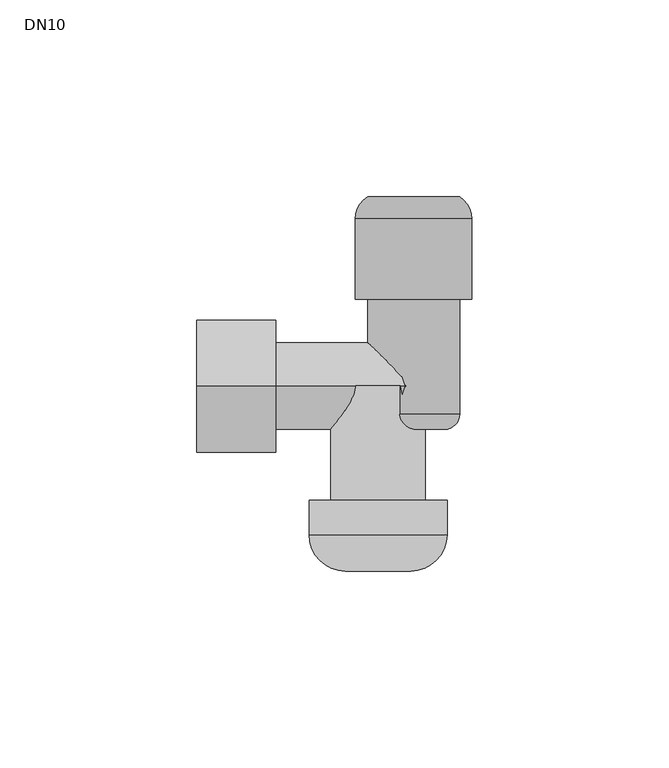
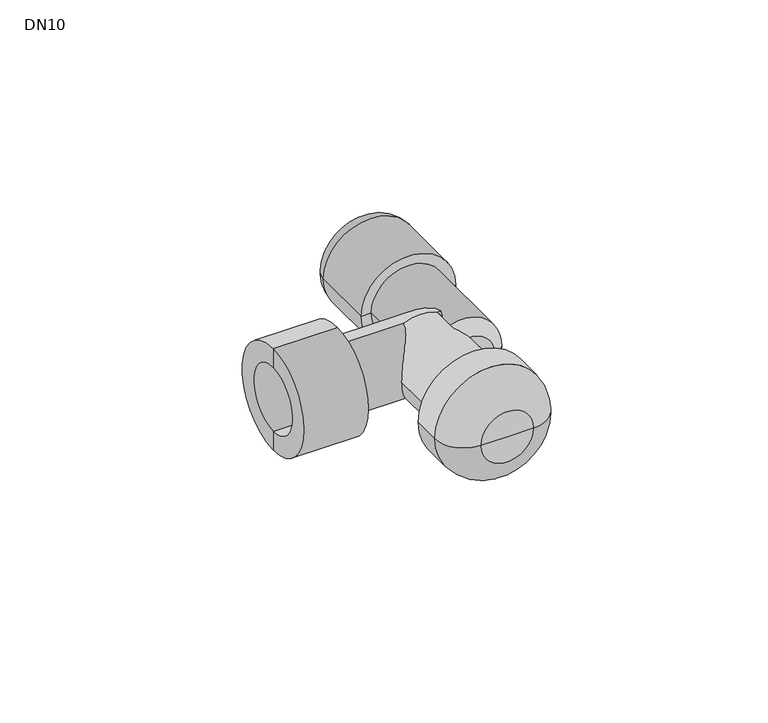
"""IFC4 building model written with IfcOpenShell, lengths in millimetres: valve geometry, Wavin_PipeAccessory_Hep2oAngledServiceValve : DN10."""

from ifc_helpers import new_model, si_unit, point, frame, origin, place, context, project, spatial, polyline, circle_curve, ellipse_curve, trimmed, source, transform, mapped, element, save
from ifc_brep_helpers import plane_surface, cylinder_surface, revolved_surface, advanced_brep


def dn10_693bce13(model_context):
    return source(origin(), model_context, "Body", "AdvancedBrep", [
        advanced_brep(
        [(3.0, -29.0, 0.0), (-21.0, -29.0, 0.0), (-21.0, 0.0, 0.0), (3.0, 0.0, 0.0), (8.5, -29.0, 0.0), (-26.5, -29.0, 0.0), (8.5, -37.8289301, 0.0), (-26.5, -37.8289301, 0.0), (-0.6710699, -47.0, 0.0), (-17.3289301, -47.0, 0.0), (-9.0, -47.0, 0.0), (-9.0, 0.0, 0.0)],
        [
            (0, 1, circle_curve(frame((-9.0, -29.0, 0.0), z_axis=(0.0, 1.0, 0.0), x_axis=(-1.0, 0.0, 0.0)), 12.0)),
            (1, 2),
            (2, 3, circle_curve(frame((-9.0, 0.0, 0.0), z_axis=(0.0, -1.0, 0.0), x_axis=(-1.0, 0.0, 0.0)), 12.0)),
            (3, 0),
            (1, 0, circle_curve(frame((-9.0, -29.0, 0.0), z_axis=(0.0, 1.0, 0.0), x_axis=(-1.0, 0.0, 0.0)), 12.0)),
            (3, 2, circle_curve(frame((-9.0, 0.0, 0.0), z_axis=(0.0, -1.0, 0.0), x_axis=(-1.0, 0.0, 0.0)), 12.0)),
            (4, 5, circle_curve(frame((-9.0, -29.0, 0.0), z_axis=(0.0, 1.0, 0.0), x_axis=(-1.0, 0.0, 0.0)), 17.5)),
            (5, 1),
            (0, 4),
            (5, 4, circle_curve(frame((-9.0, -29.0, 0.0), z_axis=(0.0, 1.0, 0.0), x_axis=(-1.0, 0.0, 0.0)), 17.5)),
            (6, 7, circle_curve(frame((-9.0, -37.8289301, 0.0), z_axis=(0.0, 1.0, 0.0), x_axis=(-1.0, 0.0, 0.0)), 17.5)),
            (7, 5),
            (4, 6),
            (7, 6, circle_curve(frame((-9.0, -37.8289301, 0.0), z_axis=(0.0, 1.0, 0.0), x_axis=(-1.0, 0.0, 0.0)), 17.5)),
            (8, 9, circle_curve(frame((-9.0, -47.0, 0.0), z_axis=(0.0, 1.0, 0.0), x_axis=(-1.0, 0.0, 0.0)), 8.3289301)),
            (9, 7, circle_curve(frame((-17.3289301, -37.8289301, 0.0), z_axis=(0.0, 0.0, -1.0), x_axis=(0.0, -1.0, 0.0)), 9.1710699)),
            (6, 8, circle_curve(frame((-0.6710699, -37.8289301, 0.0), z_axis=(0.0, 0.0, -1.0), x_axis=(0.0, -1.0, 0.0)), 9.1710699)),
            (9, 8, circle_curve(frame((-9.0, -47.0, 0.0), z_axis=(0.0, 1.0, 0.0), x_axis=(-1.0, 0.0, 0.0)), 8.3289301)),
            (10, 9),
            (8, 10),
            (2, 11),
            (11, 3),
        ],
        [
            cylinder_surface(frame((-9.0, 0.0, 0.0), z_axis=(0.0, -1.0, 0.0), x_axis=(-1.0, 0.0, 0.0)), 12.0),
            plane_surface(frame((-9.0, -29.0, 0.0), z_axis=(0.0, 1.0, 0.0), x_axis=(-1.0, 0.0, 0.0))),
            cylinder_surface(frame((-9.0, 0.0, 0.0), z_axis=(0.0, -1.0, 0.0), x_axis=(-1.0, 0.0, 0.0)), 17.5),
            revolved_surface(trimmed(ellipse_curve(frame((-17.3289301, -37.8289301, 0.0), z_axis=(0.0, 0.0, 1.0), x_axis=(0.0, -1.0, 0.0)), 9.1710699, 9.1710699), [point((-26.5, -37.8289301, 0.0))], [point((-17.3289301, -47.0, 0.0))], True, "CARTESIAN"), (-9.0, 0.0, 0.0), (0.0, -1.0, 0.0)),
            plane_surface(frame((-9.0, -47.0, 0.0), z_axis=(0.0, -1.0, 0.0), x_axis=(-1.0, 0.0, 0.0))),
            plane_surface(frame((-9.0, 0.0, 0.0), z_axis=(0.0, 1.0, 0.0), x_axis=(-1.0, 0.0, 0.0))),
        ],
        [
            (0, [[1, 2, 3, 4]]),
            (0, [[5, -4, 6, -2]]),
            (1, [[7, 8, -1, 9]]),
            (1, [[10, -9, -5, -8]]),
            (2, [[11, 12, -7, 13]]),
            (2, [[14, -13, -10, -12]]),
            (3, [[15, 16, -11, 17]]),
            (3, [[18, -17, -14, -16]]),
            (4, [[19, -15, 20]]),
            (4, [[-20, -18, -19]]),
            (5, [[-3, 21, 22]]),
            (5, [[-6, -22, -21]]),
        ],
    ),
        advanced_brep(
        [(-35.0, 0.0, -11.0), (-35.0, 0.0, 11.0), (0.0, 0.0, 11.0), (0.0, 0.0, -11.0), (-35.0, 0.0, -16.8), (-35.0, 0.0, 16.8), (-55.0, 0.0, -16.8), (-55.0, 0.0, 16.8), (-55.0, 0.0, -10.6), (-55.0, 0.0, 10.6), (-40.0, 0.0, -10.6), (-40.0, 0.0, 10.6), (-40.0, 0.0, 0.0), (0.0, 0.0, 0.0)],
        [
            (0, 1, circle_curve(frame((-35.0, 0.0, 0.0), z_axis=(1.0, 0.0, 0.0), x_axis=(0.0, 0.0, 1.0)), 11.0)),
            (1, 2),
            (2, 3, circle_curve(frame((0.0, 0.0, 0.0), z_axis=(-1.0, 0.0, 0.0), x_axis=(0.0, 0.0, 1.0)), 11.0)),
            (3, 0),
            (1, 0, circle_curve(frame((-35.0, 0.0, 0.0), z_axis=(1.0, 0.0, 0.0), x_axis=(0.0, 0.0, 1.0)), 11.0)),
            (3, 2, circle_curve(frame((0.0, 0.0, 0.0), z_axis=(-1.0, 0.0, 0.0), x_axis=(0.0, 0.0, 1.0)), 11.0)),
            (4, 5, circle_curve(frame((-35.0, 0.0, 0.0), z_axis=(1.0, 0.0, 0.0), x_axis=(0.0, 0.0, 1.0)), 16.8)),
            (5, 1),
            (0, 4),
            (5, 4, circle_curve(frame((-35.0, 0.0, 0.0), z_axis=(1.0, 0.0, 0.0), x_axis=(0.0, 0.0, 1.0)), 16.8)),
            (6, 7, circle_curve(frame((-55.0, 0.0, 0.0), z_axis=(1.0, 0.0, 0.0), x_axis=(0.0, 0.0, 1.0)), 16.8)),
            (7, 5),
            (4, 6),
            (7, 6, circle_curve(frame((-55.0, 0.0, 0.0), z_axis=(1.0, 0.0, 0.0), x_axis=(0.0, 0.0, 1.0)), 16.8)),
            (8, 9, circle_curve(frame((-55.0, 0.0, 0.0), z_axis=(1.0, 0.0, 0.0), x_axis=(0.0, 0.0, 1.0)), 10.6)),
            (9, 7),
            (6, 8),
            (9, 8, circle_curve(frame((-55.0, 0.0, 0.0), z_axis=(1.0, 0.0, 0.0), x_axis=(0.0, 0.0, 1.0)), 10.6)),
            (10, 11, circle_curve(frame((-40.0, 0.0, 0.0), z_axis=(1.0, 0.0, 0.0), x_axis=(0.0, 0.0, 1.0)), 10.6)),
            (11, 9),
            (8, 10),
            (11, 10, circle_curve(frame((-40.0, 0.0, 0.0), z_axis=(1.0, 0.0, 0.0), x_axis=(0.0, 0.0, 1.0)), 10.6)),
            (12, 11),
            (10, 12),
            (2, 13),
            (13, 3),
        ],
        [
            cylinder_surface(frame((-37.2049499, 0.0, 0.0), z_axis=(-1.0, 0.0, 0.0), x_axis=(0.0, 0.0, 1.0)), 11.0),
            plane_surface(frame((-35.0, 0.0, 0.0), z_axis=(1.0, 0.0, 0.0), x_axis=(0.0, 0.0, 1.0))),
            cylinder_surface(frame((-37.2049499, 0.0, 0.0), z_axis=(-1.0, 0.0, 0.0), x_axis=(0.0, 0.0, 1.0)), 16.8),
            plane_surface(frame((-55.0, 0.0, 0.0), z_axis=(-1.0, 0.0, 0.0), x_axis=(0.0, 0.0, 1.0))),
            revolved_surface(polyline([(-55.0, 0.0, 10.6), (-40.0, 0.0, 10.6)]), (-37.2049499, 0.0, 0.0), (-1.0, 0.0, 0.0)),
            plane_surface(frame((-40.0, 0.0, 0.0), z_axis=(-1.0, 0.0, 0.0), x_axis=(0.0, 0.0, 1.0))),
            plane_surface(frame((0.0, 0.0, 0.0), z_axis=(1.0, 0.0, 0.0), x_axis=(0.0, 0.0, 1.0))),
        ],
        [
            (0, [[1, 2, 3, 4]]),
            (0, [[5, -4, 6, -2]]),
            (1, [[7, 8, -1, 9]]),
            (1, [[10, -9, -5, -8]]),
            (2, [[11, 12, -7, 13]]),
            (2, [[14, -13, -10, -12]]),
            (3, [[15, 16, -11, 17]]),
            (3, [[18, -17, -14, -16]]),
            (4, [[19, 20, -15, 21]]),
            (4, [[22, -21, -18, -20]]),
            (5, [[23, -19, 24]]),
            (5, [[-24, -22, -23]]),
            (6, [[-3, 25, 26]]),
            (6, [[-6, -26, -25]]),
        ],
    ),
        advanced_brep(
        [(-11.6814858, -7.23343, 0.0), (11.6814858, -7.23343, 0.0), (7.9146554, -11.0002604, 0.0), (-7.9146554, -11.0002604, 0.0), (-11.6814858, 22.0, 0.0), (11.6814858, 22.0, 0.0), (-14.8, 22.0, 0.0), (14.8, 22.0, 0.0), (-14.8, 42.4687037, 0.0), (14.8, 42.4687037, 0.0), (-7.5, 48.0, 0.0), (7.5, 48.0, 0.0), (11.6814858, 48.0, 0.0), (-11.6814858, 48.0, 0.0), (-7.5, 22.0, 0.0), (7.5, 22.0, 0.0), (0.0, 22.0, 0.0), (0.0, -11.0002604, 0.0)],
        [
            (0, 1, circle_curve(frame((0.0, -7.23343, 0.0), z_axis=(0.0, -1.0, 0.0), x_axis=(1.0, 0.0, 0.0)), 11.6814858)),
            (1, 2, circle_curve(frame((7.9146554, -7.23343, 0.0), z_axis=(0.0, 0.0, -1.0), x_axis=(0.0, 1.0, 0.0)), 3.7668304)),
            (2, 3, circle_curve(frame((0.0, -11.0002604, 0.0), z_axis=(0.0, 1.0, 0.0), x_axis=(1.0, 0.0, 0.0)), 7.9146554)),
            (3, 0, circle_curve(frame((-7.9146554, -7.23343, 0.0), z_axis=(0.0, 0.0, -1.0), x_axis=(0.0, 1.0, 0.0)), 3.7668304)),
            (1, 0, circle_curve(frame((0.0, -7.23343, 0.0), z_axis=(0.0, -1.0, 0.0), x_axis=(1.0, 0.0, 0.0)), 11.6814858)),
            (3, 2, circle_curve(frame((0.0, -11.0002604, 0.0), z_axis=(0.0, 1.0, 0.0), x_axis=(1.0, 0.0, 0.0)), 7.9146554)),
            (4, 5, circle_curve(frame((0.0, 22.0, 0.0), z_axis=(0.0, -1.0, 0.0), x_axis=(1.0, 0.0, 0.0)), 11.6814858)),
            (5, 1),
            (0, 4),
            (5, 4, circle_curve(frame((0.0, 22.0, 0.0), z_axis=(0.0, -1.0, 0.0), x_axis=(1.0, 0.0, 0.0)), 11.6814858)),
            (6, 7, circle_curve(frame((0.0, 22.0, 0.0), z_axis=(0.0, -1.0, 0.0), x_axis=(1.0, 0.0, 0.0)), 14.8)),
            (7, 5),
            (4, 6),
            (7, 6, circle_curve(frame((0.0, 22.0, 0.0), z_axis=(0.0, -1.0, 0.0), x_axis=(1.0, 0.0, 0.0)), 14.8)),
            (8, 9, circle_curve(frame((0.0, 42.4687037, 0.0), z_axis=(0.0, -1.0, 0.0), x_axis=(1.0, 0.0, 0.0)), 14.8)),
            (9, 7),
            (6, 8),
            (9, 8, circle_curve(frame((0.0, 42.4687037, 0.0), z_axis=(0.0, -1.0, 0.0), x_axis=(1.0, 0.0, 0.0)), 14.8)),
            (10, 11, circle_curve(frame((0.0, 48.0, 0.0), z_axis=(0.0, -1.0, 0.0), x_axis=(1.0, 0.0, 0.0)), 7.5)),
            (11, 12),
            (12, 13, circle_curve(frame((0.0, 48.0, 0.0), z_axis=(0.0, 1.0, 0.0), x_axis=(1.0, 0.0, 0.0)), 11.6814858)),
            (13, 10),
            (11, 10, circle_curve(frame((0.0, 48.0, 0.0), z_axis=(0.0, -1.0, 0.0), x_axis=(1.0, 0.0, 0.0)), 7.5)),
            (13, 12, circle_curve(frame((0.0, 48.0, 0.0), z_axis=(0.0, 1.0, 0.0), x_axis=(1.0, 0.0, 0.0)), 11.6814858)),
            (14, 15, circle_curve(frame((0.0, 22.0, 0.0), z_axis=(0.0, -1.0, 0.0), x_axis=(1.0, 0.0, 0.0)), 7.5)),
            (15, 11),
            (10, 14),
            (15, 14, circle_curve(frame((0.0, 22.0, 0.0), z_axis=(0.0, -1.0, 0.0), x_axis=(1.0, 0.0, 0.0)), 7.5)),
            (16, 15),
            (14, 16),
            (2, 17),
            (17, 3),
            (12, 9, circle_curve(frame((8.3353238, 42.4687037, 0.0), z_axis=(0.0, 0.0, -1.0), x_axis=(0.0, 1.0, 0.0)), 6.4646762)),
            (8, 13, circle_curve(frame((-8.3353238, 42.4687037, 0.0), z_axis=(0.0, 0.0, -1.0), x_axis=(0.0, 1.0, 0.0)), 6.4646762)),
        ],
        [
            revolved_surface(trimmed(ellipse_curve(frame((7.9146554, -7.23343, 0.0), z_axis=(0.0, 0.0, 1.0), x_axis=(0.0, 1.0, 0.0)), 3.7668304, 3.7668304), [point((7.9146554, -11.0002604, 0.0))], [point((11.6814858, -7.23343, 0.0))], True, "CARTESIAN"), (0.0, 2000.0, 0.0), (0.0, 1.0, 0.0)),
            cylinder_surface(frame((0.0, 2000.0, 0.0), z_axis=(0.0, 1.0, 0.0), x_axis=(1.0, 0.0, 0.0)), 11.6814858),
            plane_surface(frame((0.0, 22.0, 0.0), z_axis=(0.0, -1.0, 0.0), x_axis=(1.0, 0.0, 0.0))),
            cylinder_surface(frame((0.0, 2000.0, 0.0), z_axis=(0.0, 1.0, 0.0), x_axis=(1.0, 0.0, 0.0)), 14.8),
            plane_surface(frame((0.0, 48.0, 0.0), z_axis=(0.0, 1.0, 0.0), x_axis=(1.0, 0.0, 0.0))),
            revolved_surface(polyline([(7.5, 48.0, 0.0), (7.5, 22.0, 0.0)]), (0.0, 2000.0, 0.0), (0.0, 1.0, 0.0)),
            plane_surface(frame((0.0, 22.0, 0.0), z_axis=(0.0, 1.0, 0.0), x_axis=(1.0, 0.0, 0.0))),
            plane_surface(frame((0.0, -11.0002604, 0.0), z_axis=(0.0, -1.0, 0.0), x_axis=(1.0, 0.0, 0.0))),
            revolved_surface(trimmed(ellipse_curve(frame((8.3353238, 42.4687037, 0.0), z_axis=(0.0, 0.0, 1.0), x_axis=(0.0, 1.0, 0.0)), 6.4646762, 6.4646762), [point((14.8, 42.4687037, 0.0))], [point((11.6814858, 48.0, 0.0))], True, "CARTESIAN"), (0.0, 2000.0, 0.0), (0.0, 1.0, 0.0)),
        ],
        [
            (0, [[1, 2, 3, 4]]),
            (0, [[5, -4, 6, -2]]),
            (1, [[7, 8, -1, 9]]),
            (1, [[10, -9, -5, -8]]),
            (2, [[11, 12, -7, 13]]),
            (2, [[14, -13, -10, -12]]),
            (3, [[15, 16, -11, 17]]),
            (3, [[18, -17, -14, -16]]),
            (4, [[19, 20, 21, 22]]),
            (4, [[23, -22, 24, -20]]),
            (5, [[25, 26, -19, 27]]),
            (5, [[28, -27, -23, -26]]),
            (6, [[29, -25, 30]]),
            (6, [[-30, -28, -29]]),
            (7, [[-3, 31, 32]]),
            (7, [[-6, -32, -31]]),
            (8, [[-21, 33, -15, 34]]),
            (8, [[-24, -34, -18, -33]]),
        ],
    ),
    ])


if __name__ == "__main__":
    model = new_model("IFC4")
    model_context = context("Model", 3, world=origin())
    ifc_project = project(units=[si_unit("LENGTHUNIT", "METRE", prefix="MILLI")], contexts=[model_context])
    site = spatial("IfcSite", under=ifc_project)
    building = spatial("IfcBuilding", under=site)
    placement = place(None, origin())
    dn10_shape = dn10_693bce13(model_context)
    element("IfcValve", 1, ObjectType="Wavin_PipeAccessory_Hep2oAngledServiceValve : DN10", at=placement, inside=building, context=model_context, shape_type="MappedRepresentation", body=[
        mapped(dn10_shape, transform((0.0, 0.0, 0.0), x_axis=(1.0, 0.0, 0.0), y_axis=(0.0, 1.0, 0.0), z_axis=(0.0, 0.0, 1.0))),
    ])
    save(model, "model.ifc")
